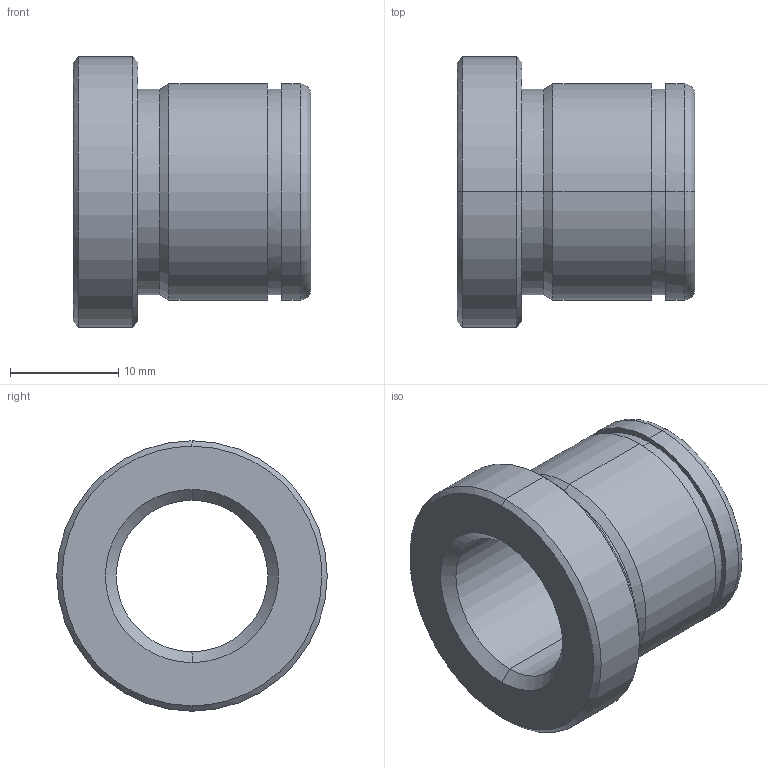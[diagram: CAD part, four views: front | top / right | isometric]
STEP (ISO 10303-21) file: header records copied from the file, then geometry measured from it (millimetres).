
FILE_DESCRIPTION(('CATIA V5 STEP Exchange'),'2;1');
FILE_NAME('C:\Users\Utente\Desktop\IO LAVORO\3D X SITO CF\X SITO\PLASTICA\553\553-14X22.stp','2021-05-21T18:27:21+00:00',('none'),('none'),'CATIA Version 5 Release 20 GA (IN-10)','CATIA V5 STEP AP203','none');
FILE_SCHEMA(('CONFIG_CONTROL_DESIGN'));
Length unit declared in the file: millimetre
Products named in the file (1): 553-14x22
Bounding box: 22 x 25 x 25 mm (x, y, z)
Volume: 4392.8 mm3; surface area: 3080.6 mm2
Topology: 1 solids, 1 shells, 29 faces, 92 edges, 68 vertices
Faces by surface type: cylinder 12, cone 8, plane 5, torus 4
Entity records: 1222 total; most frequent: CARTESIAN_POINT 368, ORIENTED_EDGE 184, DIRECTION 136, EDGE_CURVE 92, AXIS2_PLACEMENT_3D 88, VERTEX_POINT 68, CIRCLE 58, EDGE_LOOP 34
